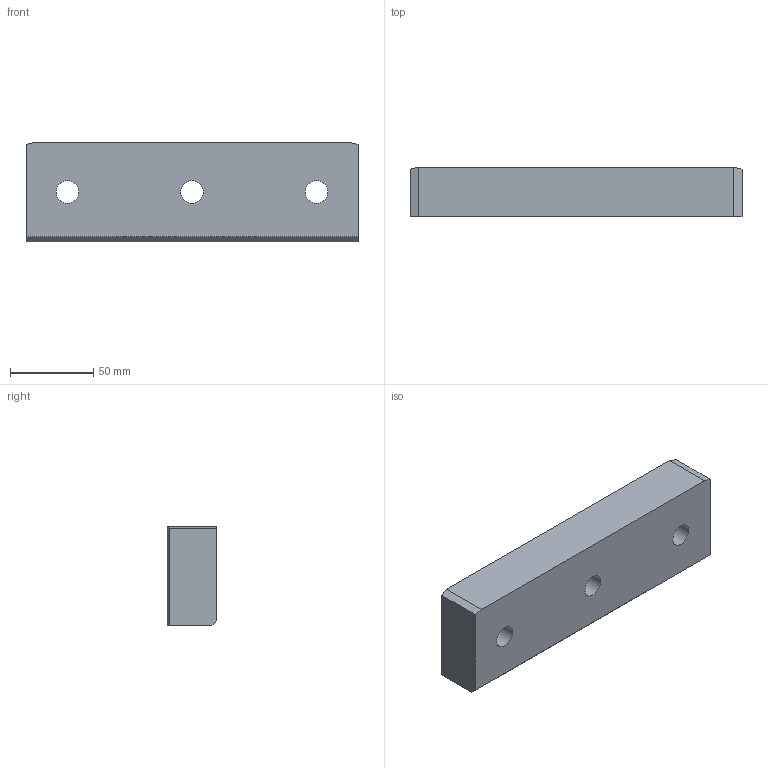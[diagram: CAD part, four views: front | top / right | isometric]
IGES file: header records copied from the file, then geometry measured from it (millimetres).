
Start section: Data from Parasolid IGES Translator 20.0.26, Copyright(c) 2006 Siemens P LM Software. All Rights Reserved.
Global section: file name: G224-12-030-200.igs; native system: By Siemens PLM Incorporated; preprocessor: XPlus GENERIC/IGES 20.0.26; author: Noname; organization: Noname; date: 20190709.085214; units: millimetre
Bounding box: 200 x 30 x 60 mm (x, y, z)
Surface area: 42761 mm2 (no closed solid volume)
Topology: 0 solids, 0 shells, 20 faces, 86 edges, 80 vertices
Faces by surface type: extrusion 14, revolution 6
